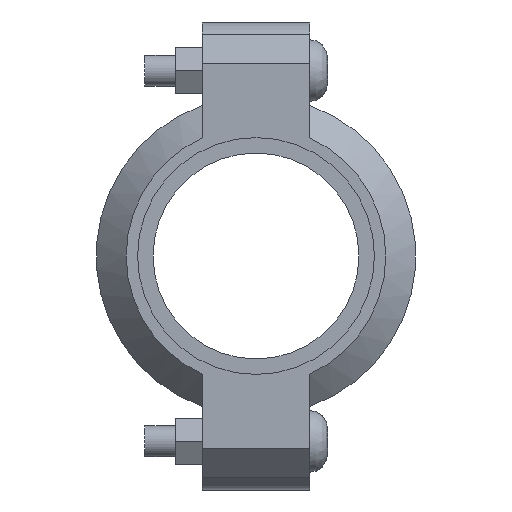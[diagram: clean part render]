
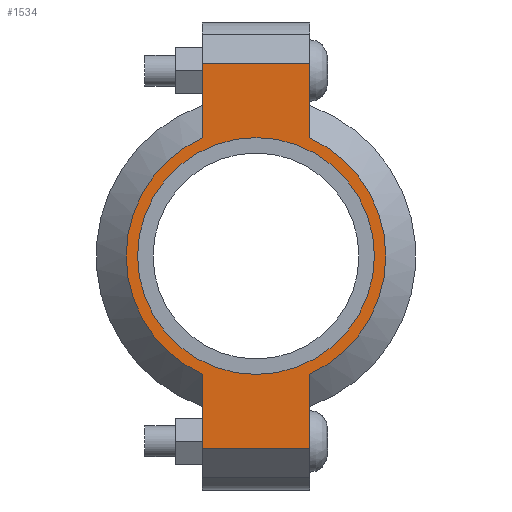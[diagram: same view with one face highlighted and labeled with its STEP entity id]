
A CAD part, left-side view. The second image highlights one B-rep face of the part: STEP entity #1534.
In plain terms, the highlighted planar face has unit normal (-1, 0, 0) as drawn and (0, 0, 1) by its records, which use the part's own axes.
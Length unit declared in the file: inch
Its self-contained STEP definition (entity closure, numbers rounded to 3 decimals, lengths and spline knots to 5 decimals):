
#158=LINE('',#2677,#251);
#166=LINE('',#2713,#259);
#173=LINE('',#2734,#266);
#182=LINE('',#2766,#275);
#183=LINE('',#2770,#276);
#184=LINE('',#2772,#277);
#251=VECTOR('',#2185,0.3937);
#259=VECTOR('',#2201,0.3937);
#266=VECTOR('',#2220,0.3937);
#275=VECTOR('',#2245,0.3937);
#276=VECTOR('',#2250,0.3937);
#277=VECTOR('',#2251,0.3937);
#333=FACE_BOUND('',#511,.T.);
#405=FACE_OUTER_BOUND('',#510,.T.);
#510=EDGE_LOOP('',(#1275,#1276,#1277,#1278,#1279,#1280,#1281,#1282));
#511=EDGE_LOOP('',(#1283));
#583=CIRCLE('',#1753,1.4375);
#609=CIRCLE('',#1812,1.575);
#610=CIRCLE('',#1813,1.575);
#675=VERTEX_POINT('',#2493);
#718=VERTEX_POINT('',#2674);
#719=VERTEX_POINT('',#2676);
#730=VERTEX_POINT('',#2708);
#731=VERTEX_POINT('',#2712);
#738=VERTEX_POINT('',#2731);
#739=VERTEX_POINT('',#2733);
#749=VERTEX_POINT('',#2769);
#750=VERTEX_POINT('',#2771);
#831=EDGE_CURVE('',#675,#675,#583,.T.);
#892=EDGE_CURVE('',#719,#718,#158,.T.);
#906=EDGE_CURVE('',#731,#730,#166,.T.);
#916=EDGE_CURVE('',#739,#738,#173,.T.);
#931=EDGE_CURVE('',#731,#718,#182,.T.);
#932=EDGE_CURVE('',#730,#739,#609,.T.);
#933=EDGE_CURVE('',#749,#738,#183,.T.);
#934=EDGE_CURVE('',#749,#750,#184,.T.);
#935=EDGE_CURVE('',#750,#719,#610,.T.);
#1275=ORIENTED_EDGE('',*,*,#931,.F.);
#1276=ORIENTED_EDGE('',*,*,#906,.T.);
#1277=ORIENTED_EDGE('',*,*,#932,.T.);
#1278=ORIENTED_EDGE('',*,*,#916,.T.);
#1279=ORIENTED_EDGE('',*,*,#933,.F.);
#1280=ORIENTED_EDGE('',*,*,#934,.T.);
#1281=ORIENTED_EDGE('',*,*,#935,.T.);
#1282=ORIENTED_EDGE('',*,*,#892,.T.);
#1283=ORIENTED_EDGE('',*,*,#831,.T.);
#1376=PLANE('',#1811);
#1534=ADVANCED_FACE('',(#405,#333),#1376,.T.);
#1753=AXIS2_PLACEMENT_3D('',#2495,#2061,#2062);
#1811=AXIS2_PLACEMENT_3D('',#2767,#2246,#2247);
#1812=AXIS2_PLACEMENT_3D('',#2768,#2248,#2249);
#1813=AXIS2_PLACEMENT_3D('',#2773,#2252,#2253);
#2061=DIRECTION('center_axis',(0.,0.,-1.));
#2062=DIRECTION('ref_axis',(-1.,0.,0.));
#2185=DIRECTION('',(-1.,0.,0.));
#2201=DIRECTION('',(1.,0.,0.));
#2220=DIRECTION('',(1.,0.,0.));
#2245=DIRECTION('',(0.,1.,0.));
#2246=DIRECTION('center_axis',(0.,0.,1.));
#2247=DIRECTION('ref_axis',(1.,0.,0.));
#2248=DIRECTION('center_axis',(0.,0.,1.));
#2249=DIRECTION('ref_axis',(-1.,0.,0.));
#2250=DIRECTION('',(0.,-1.,0.));
#2251=DIRECTION('',(-1.,0.,0.));
#2252=DIRECTION('center_axis',(0.,0.,1.));
#2253=DIRECTION('ref_axis',(-1.,0.,0.));
#2493=CARTESIAN_POINT('',(1.4375,0.,0.94));
#2495=CARTESIAN_POINT('Origin',(0.,0.,0.94));
#2674=CARTESIAN_POINT('',(-2.34,0.65,0.94));
#2676=CARTESIAN_POINT('',(-1.43462,0.65,0.94));
#2677=CARTESIAN_POINT('',(-2.84,0.65,0.94));
#2708=CARTESIAN_POINT('',(-1.43462,-0.65,0.94));
#2712=CARTESIAN_POINT('',(-2.34,-0.65,0.94));
#2713=CARTESIAN_POINT('',(2.84,-0.65,0.94));
#2731=CARTESIAN_POINT('',(2.34,-0.65,0.94));
#2733=CARTESIAN_POINT('',(1.43462,-0.65,0.94));
#2734=CARTESIAN_POINT('',(2.84,-0.65,0.94));
#2766=CARTESIAN_POINT('',(-2.34,0.325,0.94));
#2767=CARTESIAN_POINT('Origin',(0.,0.,
0.94));
#2768=CARTESIAN_POINT('Origin',(0.,0.,0.94));
#2769=CARTESIAN_POINT('',(2.34,0.65,0.94));
#2770=CARTESIAN_POINT('',(2.34,-0.325,0.94));
#2771=CARTESIAN_POINT('',(1.43462,0.65,0.94));
#2772=CARTESIAN_POINT('',(-2.84,0.65,0.94));
#2773=CARTESIAN_POINT('Origin',(0.,0.,0.94));
